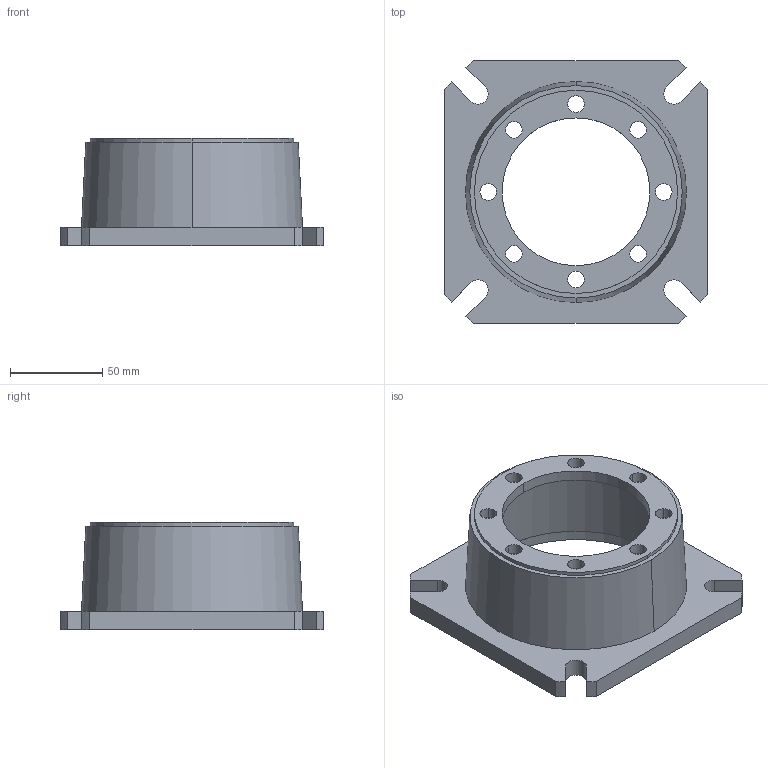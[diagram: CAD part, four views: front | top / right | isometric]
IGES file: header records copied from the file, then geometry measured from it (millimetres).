
Start section:  PTC IGES file: flaoutflb63.igs
Global section: file name: flaoutflb63.igs; native system: Pro/ENGINEER by Parametric Technology Corporation; preprocessor: 2011490; author: atrevisan; organization: Unknown; date: 20130828.103746; units: millimetre
Bounding box: 142 x 142 x 58 mm (x, y, z)
Volume: 158506.5 mm3; surface area: 70612 mm2
Topology: 1 solids, 1 shells, 56 faces, 150 edges, 100 vertices
Faces by surface type: revolution 38, bspline 18
